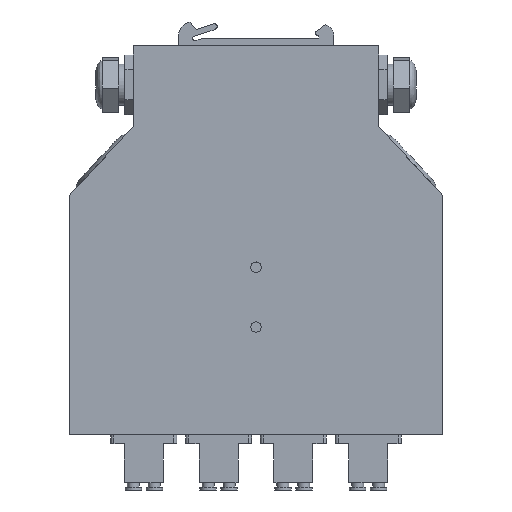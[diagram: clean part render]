
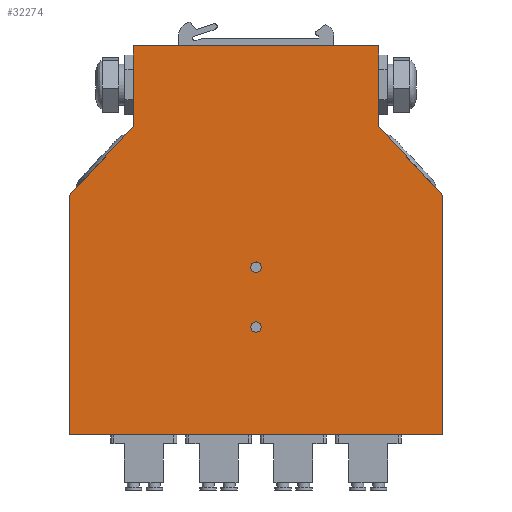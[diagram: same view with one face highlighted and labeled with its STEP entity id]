
A CAD part, front view. The second image highlights one B-rep face of the part: STEP entity #32274.
In plain terms, the highlighted planar face has unit normal (0, -1, 0).
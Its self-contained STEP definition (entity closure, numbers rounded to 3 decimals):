
#31970=CARTESIAN_POINT('',(41.,0.,130.));
#31971=VERTEX_POINT('',#31970);
#31972=CARTESIAN_POINT('',(41.,0.,103.));
#31973=VERTEX_POINT('',#31972);
#31974=CARTESIAN_POINT('',(41.,0.,130.));
#31975=DIRECTION('',(0.,0.,-1.));
#31976=VECTOR('',#31975,27.);
#31977=LINE('',#31974,#31976);
#31978=EDGE_CURVE('',#31971,#31973,#31977,.T.);
#32012=CARTESIAN_POINT('',(62.5,0.,80.));
#32013=VERTEX_POINT('',#32012);
#32014=CARTESIAN_POINT('',(41.,0.,103.));
#32015=DIRECTION('',(0.683,0.,-0.731));
#32016=VECTOR('',#32015,31.484);
#32017=LINE('',#32014,#32016);
#32018=EDGE_CURVE('',#31973,#32013,#32017,.T.);
#32076=CARTESIAN_POINT('',(62.5,0.,0.));
#32077=VERTEX_POINT('',#32076);
#32078=CARTESIAN_POINT('',(62.5,0.,80.));
#32079=DIRECTION('',(-0.,0.,-1.));
#32080=VECTOR('',#32079,80.);
#32081=LINE('',#32078,#32080);
#32082=EDGE_CURVE('',#32013,#32077,#32081,.T.);
#32100=CARTESIAN_POINT('',(-62.5,0.,0.));
#32101=VERTEX_POINT('',#32100);
#32102=CARTESIAN_POINT('',(62.5,0.,0.));
#32103=DIRECTION('',(-1.,0.,0.));
#32104=VECTOR('',#32103,125.);
#32105=LINE('',#32102,#32104);
#32106=EDGE_CURVE('',#32077,#32101,#32105,.T.);
#32132=CARTESIAN_POINT('',(-62.5,0.,80.));
#32133=VERTEX_POINT('',#32132);
#32134=CARTESIAN_POINT('',(-62.5,0.,0.));
#32135=DIRECTION('',(0.,0.,1.));
#32136=VECTOR('',#32135,80.);
#32137=LINE('',#32134,#32136);
#32138=EDGE_CURVE('',#32101,#32133,#32137,.T.);
#32159=CARTESIAN_POINT('',(-41.,0.,103.));
#32160=VERTEX_POINT('',#32159);
#32161=CARTESIAN_POINT('',(-62.5,0.,80.));
#32162=DIRECTION('',(0.683,0.,0.731));
#32163=VECTOR('',#32162,31.484);
#32164=LINE('',#32161,#32163);
#32165=EDGE_CURVE('',#32133,#32160,#32164,.T.);
#32183=CARTESIAN_POINT('',(-41.,0.,130.));
#32184=VERTEX_POINT('',#32183);
#32185=CARTESIAN_POINT('',(-41.,0.,103.));
#32186=DIRECTION('',(-0.,0.,1.));
#32187=VECTOR('',#32186,27.);
#32188=LINE('',#32185,#32187);
#32189=EDGE_CURVE('',#32160,#32184,#32188,.T.);
#32207=CARTESIAN_POINT('',(-41.,0.,130.));
#32208=DIRECTION('',(1.,0.,-0.));
#32209=VECTOR('',#32208,82.);
#32210=LINE('',#32207,#32209);
#32211=EDGE_CURVE('',#32184,#31971,#32210,.T.);
#32219=CARTESIAN_POINT('',(0.,0.,0.));
#32220=DIRECTION('',(0.,1.,0.));
#32221=DIRECTION('',(-1.,0.,0.));
#32222=AXIS2_PLACEMENT_3D('',#32219,#32220,#32221);
#32223=PLANE('',#32222);
#32224=CARTESIAN_POINT('',(0.,0.,34.25));
#32225=VERTEX_POINT('',#32224);
#32226=CARTESIAN_POINT('',(0.,0.,37.75));
#32227=VERTEX_POINT('',#32226);
#32228=CARTESIAN_POINT('',(0.,0.,36.));
#32229=DIRECTION('',(0.,-1.,0.));
#32230=DIRECTION('',(0.,0.,1.));
#32231=AXIS2_PLACEMENT_3D('',#32228,#32229,#32230);
#32232=CIRCLE('',#32231,1.75);
#32233=EDGE_CURVE('',#32225,#32227,#32232,.T.);
#32234=ORIENTED_EDGE('',*,*,#32233,.F.);
#32235=CARTESIAN_POINT('',(0.,0.,36.));
#32236=DIRECTION('',(0.,-1.,0.));
#32237=DIRECTION('',(0.,0.,1.));
#32238=AXIS2_PLACEMENT_3D('',#32235,#32236,#32237);
#32239=CIRCLE('',#32238,1.75);
#32240=EDGE_CURVE('',#32227,#32225,#32239,.T.);
#32241=ORIENTED_EDGE('',*,*,#32240,.F.);
#32242=EDGE_LOOP('',(#32234,#32241));
#32243=FACE_BOUND('',#32242,.T.);
#32244=CARTESIAN_POINT('',(0.,0.,54.25));
#32245=VERTEX_POINT('',#32244);
#32246=CARTESIAN_POINT('',(1.75,0.,56.));
#32247=VERTEX_POINT('',#32246);
#32248=CARTESIAN_POINT('',(0.,0.,56.));
#32249=DIRECTION('',(0.,-1.,0.));
#32250=DIRECTION('',(1.,0.,-0.));
#32251=AXIS2_PLACEMENT_3D('',#32248,#32249,#32250);
#32252=CIRCLE('',#32251,1.75);
#32253=EDGE_CURVE('',#32245,#32247,#32252,.T.);
#32254=ORIENTED_EDGE('',*,*,#32253,.F.);
#32255=CARTESIAN_POINT('',(0.,0.,56.));
#32256=DIRECTION('',(0.,-1.,0.));
#32257=DIRECTION('',(1.,0.,-0.));
#32258=AXIS2_PLACEMENT_3D('',#32255,#32256,#32257);
#32259=CIRCLE('',#32258,1.75);
#32260=EDGE_CURVE('',#32247,#32245,#32259,.T.);
#32261=ORIENTED_EDGE('',*,*,#32260,.F.);
#32262=EDGE_LOOP('',(#32254,#32261));
#32263=FACE_BOUND('',#32262,.T.);
#32264=ORIENTED_EDGE('',*,*,#31978,.F.);
#32265=ORIENTED_EDGE('',*,*,#32211,.F.);
#32266=ORIENTED_EDGE('',*,*,#32189,.F.);
#32267=ORIENTED_EDGE('',*,*,#32165,.F.);
#32268=ORIENTED_EDGE('',*,*,#32138,.F.);
#32269=ORIENTED_EDGE('',*,*,#32106,.F.);
#32270=ORIENTED_EDGE('',*,*,#32082,.F.);
#32271=ORIENTED_EDGE('',*,*,#32018,.F.);
#32272=EDGE_LOOP('',(#32264,#32265,#32266,#32267,#32268,#32269,#32270,#32271));
#32273=FACE_BOUND('',#32272,.T.);
#32274=ADVANCED_FACE('',(#32243,#32263,#32273),#32223,.F.);
